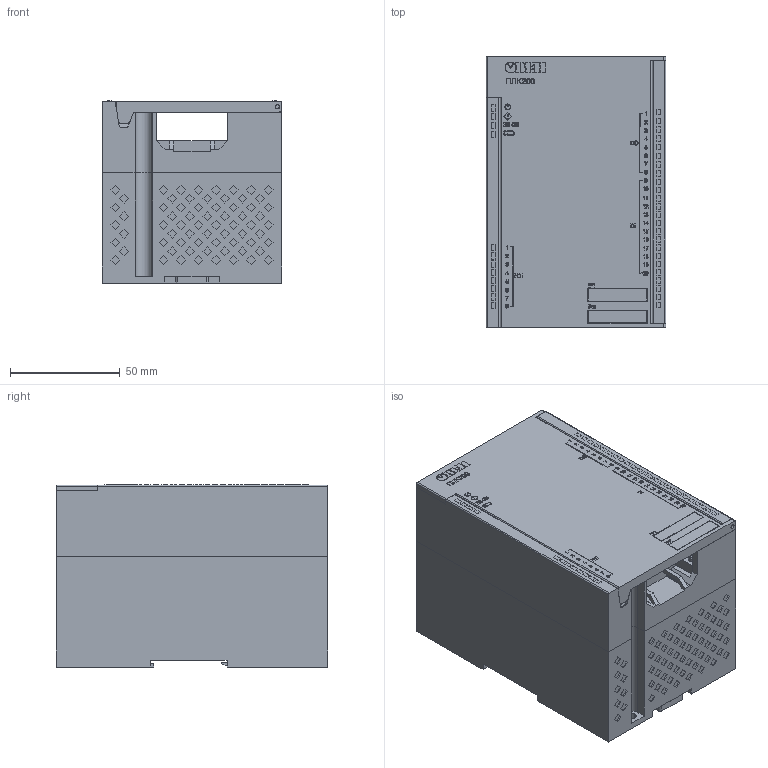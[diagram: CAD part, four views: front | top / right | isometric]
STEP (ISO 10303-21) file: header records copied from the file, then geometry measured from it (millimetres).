
FILE_DESCRIPTION (( 'STEP AP214' ), '1' );
FILE_NAME ('3D Ìîäåëü ÏËÊ200-02-CS.STEP', '2021-05-13T11:59:23', ( '' ), ( '' ), 'SwSTEP 2.0', 'SolidWorks 2015', '' );
FILE_SCHEMA (( 'AUTOMOTIVE_DESIGN' ));
Length unit declared in the file: millimetre
Products named in the file (9): Ôèêñàòîð ÏËÊ; Ðîçåòêà ÏËÊ — ëåâàÿ; 3D Ìîäåëü ÏËÊ200-02-CS; micro usb b; Ethernet; Êëåììíèê 2çåë; 署赅 纤蔩00; Ðîçåòêà ÏËÊ; 扻豵鵨 玹佤00
Assembly tree (9 placements, depth 2):
  3D Ìîäåëü ÏËÊ200-02-CS
    扻豵鵨 玹佤00
    Ôèêñàòîð ÏËÊ
    Ðîçåòêà ÏËÊ
    Ðîçåòêà ÏËÊ — ëåâàÿ
    署赅 纤蔩00
    micro usb b
    Ethernet  x2
    Êëåììíèê 2çåë
Bounding box: 82 x 124.04 x 83.1 mm (x, y, z)
Volume: 728632.4 mm3; surface area: 136003.7 mm2
Topology: 55 solids, 55 shells, 9722 faces, 27785 edges, 18536 vertices
Faces by surface type: plane 9102, cylinder 255, bspline 148, torus 133, cone 84
Entity records: 405067 total; most frequent: CARTESIAN_POINT 59614, ORIENTED_EDGE 55282, DIRECTION 46904, EDGE_CURVE 27641, VECTOR 25796, LINE 25796, VERTEX_POINT 18440, AXIS2_PLACEMENT_3D 10554
